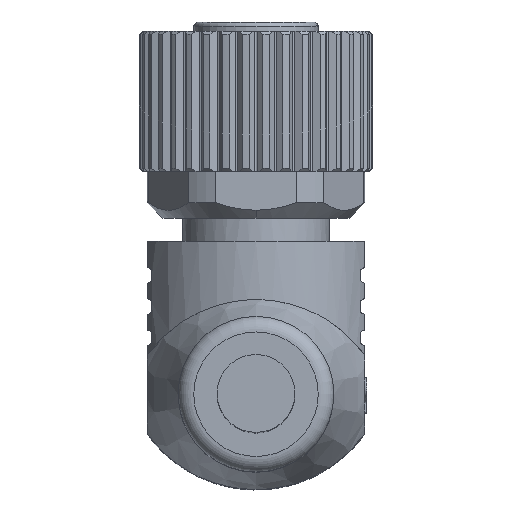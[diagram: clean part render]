
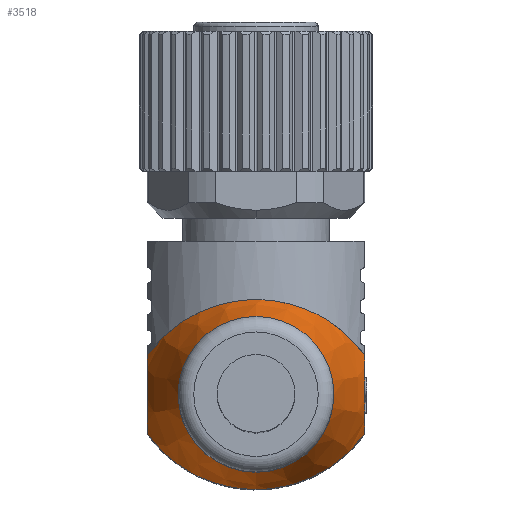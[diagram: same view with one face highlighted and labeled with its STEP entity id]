
A CAD part, top view. The second image highlights one B-rep face of the part: STEP entity #3518.
In plain terms, the highlighted conical face has half-angle 19.816 degrees and reference radius 8.308 mm.
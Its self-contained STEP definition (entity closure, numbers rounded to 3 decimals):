
#272=CONICAL_SURFACE('',#12224,8.308,19.816);
#1125=B_SPLINE_CURVE_WITH_KNOTS('',3,(#20891,#20892,#20893,#20894,#20895,
#20896,#20897,#20898,#20899,#20900),.UNSPECIFIED.,.F.,.F.,(4,2,2,2,4),(0.,
0.25,0.5,0.75,1.),.UNSPECIFIED.);
#1126=B_SPLINE_CURVE_WITH_KNOTS('',3,(#20903,#20904,#20905,#20906,#20907,
#20908),.UNSPECIFIED.,.F.,.F.,(4,2,4),(0.,0.5,1.),.UNSPECIFIED.);
#1127=B_SPLINE_CURVE_WITH_KNOTS('',3,(#20910,#20911,#20912,#20913,#20914,
#20915,#20916,#20917,#20918,#20919),.UNSPECIFIED.,.F.,.F.,(4,2,2,2,4),(0.,
0.25,0.5,0.75,1.),.UNSPECIFIED.);
#1128=B_SPLINE_CURVE_WITH_KNOTS('',3,(#20921,#20922,#20923,#20924,#20925,
#20926),.UNSPECIFIED.,.F.,.F.,(4,2,4),(0.,0.5,1.),.UNSPECIFIED.);
#3518=ADVANCED_FACE('',(#3939,#3940),#272,.T.);
#3939=FACE_BOUND('',#4526,.T.);
#3940=FACE_BOUND('',#4527,.T.);
#4526=EDGE_LOOP('',(#7369));
#4527=EDGE_LOOP('',(#7370,#7371,#7372,#7373));
#7369=ORIENTED_EDGE('',*,*,#10396,.F.);
#7370=ORIENTED_EDGE('',*,*,#10511,.F.);
#7371=ORIENTED_EDGE('',*,*,#10512,.F.);
#7372=ORIENTED_EDGE('',*,*,#10513,.F.);
#7373=ORIENTED_EDGE('',*,*,#10514,.F.);
#8887=VERTEX_POINT('',#20486);
#8945=VERTEX_POINT('',#20901);
#8946=VERTEX_POINT('',#20902);
#8947=VERTEX_POINT('',#20909);
#8948=VERTEX_POINT('',#20920);
#10396=EDGE_CURVE('',#8887,#8887,#11213,.T.);
#10511=EDGE_CURVE('',#8945,#8946,#1125,.T.);
#10512=EDGE_CURVE('',#8947,#8945,#1126,.T.);
#10513=EDGE_CURVE('',#8948,#8947,#1127,.T.);
#10514=EDGE_CURVE('',#8946,#8948,#1128,.T.);
#11213=CIRCLE('',#12176,5.);
#12176=AXIS2_PLACEMENT_3D('',#20485,#14751,#14752);
#12224=AXIS2_PLACEMENT_3D('',#20927,#14954,#14955);
#14751=DIRECTION('',(0.,0.,1.));
#14752=DIRECTION('',(0.,-1.,0.));
#14954=DIRECTION('',(0.,0.,-1.));
#14955=DIRECTION('',(0.,-1.,0.));
#20485=CARTESIAN_POINT('',(0.,-1.953,18.));
#20486=CARTESIAN_POINT('',(0.,-6.953,18.));
#20891=CARTESIAN_POINT('',(7.,-4.453,11.248));
#20892=CARTESIAN_POINT('',(6.292,-5.442,12.174));
#20893=CARTESIAN_POINT('',(5.375,-6.302,13.044));
#20894=CARTESIAN_POINT('',(3.01,-7.622,14.449));
#20895=CARTESIAN_POINT('',(1.532,-8.051,14.945));
#20896=CARTESIAN_POINT('',(-1.511,-8.054,14.949));
#20897=CARTESIAN_POINT('',(-3.,-7.625,14.452));
#20898=CARTESIAN_POINT('',(-5.355,-6.317,13.06));
#20899=CARTESIAN_POINT('',(-6.291,-5.444,12.175));
#20900=CARTESIAN_POINT('',(-7.,-4.453,11.248));
#20901=CARTESIAN_POINT('',(7.,-4.453,11.248));
#20902=CARTESIAN_POINT('',(-7.,-4.453,11.248));
#20903=CARTESIAN_POINT('',(7.,0.547,11.248));
#20904=CARTESIAN_POINT('',(7.,-0.148,11.897));
#20905=CARTESIAN_POINT('',(7.,-1.01,12.45));
#20906=CARTESIAN_POINT('',(7.,-2.899,12.449));
#20907=CARTESIAN_POINT('',(7.,-3.759,11.895));
#20908=CARTESIAN_POINT('',(7.,-4.453,11.248));
#20909=CARTESIAN_POINT('',(7.,0.547,11.248));
#20910=CARTESIAN_POINT('',(-7.,0.547,11.248));
#20911=CARTESIAN_POINT('',(-6.292,1.537,12.174));
#20912=CARTESIAN_POINT('',(-5.375,2.397,13.044));
#20913=CARTESIAN_POINT('',(-3.01,3.717,14.449));
#20914=CARTESIAN_POINT('',(-1.532,4.146,14.945));
#20915=CARTESIAN_POINT('',(1.511,4.149,14.949));
#20916=CARTESIAN_POINT('',(3.,3.719,14.452));
#20917=CARTESIAN_POINT('',(5.355,2.412,13.06));
#20918=CARTESIAN_POINT('',(6.291,1.539,12.175));
#20919=CARTESIAN_POINT('',(7.,0.547,11.248));
#20920=CARTESIAN_POINT('',(-7.,0.547,11.248));
#20921=CARTESIAN_POINT('',(-7.,-4.453,11.248));
#20922=CARTESIAN_POINT('',(-7.,-3.757,11.897));
#20923=CARTESIAN_POINT('',(-7.,-2.895,12.45));
#20924=CARTESIAN_POINT('',(-7.,-1.006,12.449));
#20925=CARTESIAN_POINT('',(-7.,-0.146,11.895));
#20926=CARTESIAN_POINT('',(-7.,0.547,11.248));
#20927=CARTESIAN_POINT('',(0.,-1.953,8.821));
